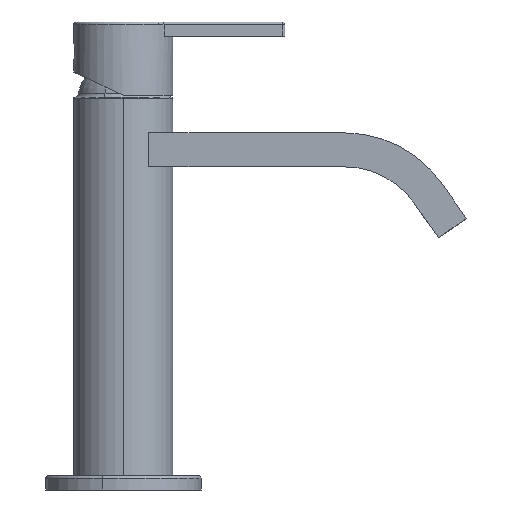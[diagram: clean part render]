
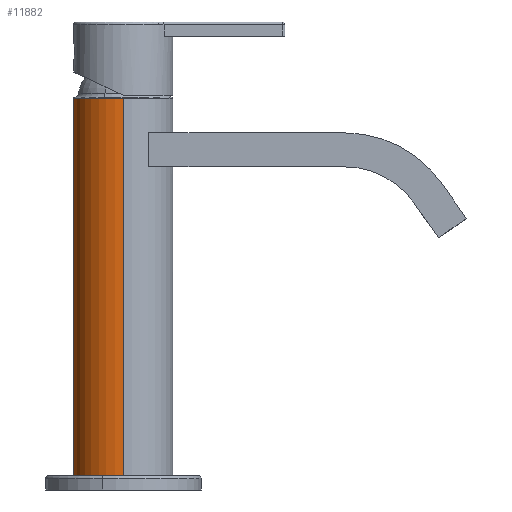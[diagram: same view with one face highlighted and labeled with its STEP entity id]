
A CAD part, left-side view. The second image highlights one B-rep face of the part: STEP entity #11882.
In plain terms, the highlighted cylindrical face has radius 17.5 mm (diameter 35 mm), a partial arc.
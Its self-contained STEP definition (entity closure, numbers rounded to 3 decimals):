
#38 = EDGE_CURVE ( 'NONE', #26594, #28253, #14179, .T. ) ;
#1697 = CARTESIAN_POINT ( 'NONE',  ( 17.5, 0., -70. ) ) ;
#1782 = CARTESIAN_POINT ( 'NONE',  ( -17.5, 0., -70. ) ) ;
#2060 = CARTESIAN_POINT ( 'NONE',  ( 0., 0., -70. ) ) ;
#2551 = AXIS2_PLACEMENT_3D ( 'NONE', #2060, #30864, #15956 ) ;
#3469 = CARTESIAN_POINT ( 'NONE',  ( 0., 0., 32.5 ) ) ;
#3553 = EDGE_CURVE ( 'NONE', #3843, #26594, #3716, .T. ) ;
#3716 = CIRCLE ( 'NONE', #2551, 17.5 ) ;
#3843 = VERTEX_POINT ( 'NONE', #1782 ) ;
#9134 = EDGE_LOOP ( 'NONE', ( #19263, #20849, #30480, #25633 ) ) ;
#9838 = AXIS2_PLACEMENT_3D ( 'NONE', #18981, #27027, #21350 ) ;
#10633 = LINE ( 'NONE', #27432, #33899 ) ;
#10799 = FACE_OUTER_BOUND ( 'NONE', #9134, .T. ) ;
#11882 = ADVANCED_FACE ( 'NONE', ( #10799 ), #15162, .T. ) ;
#14179 = LINE ( 'NONE', #30623, #33283 ) ;
#15162 = CYLINDRICAL_SURFACE ( 'NONE', #28563, 17.5 ) ;
#15790 = CARTESIAN_POINT ( 'NONE',  ( 17.5, 0., 63. ) ) ;
#15956 = DIRECTION ( 'NONE',  ( -1., 0., 0. ) ) ;
#16303 = DIRECTION ( 'NONE',  ( 0., 0., 1. ) ) ;
#18981 = CARTESIAN_POINT ( 'NONE',  ( 0., 0., 63. ) ) ;
#19263 = ORIENTED_EDGE ( 'NONE', *, *, #3553, .F. ) ;
#19473 = DIRECTION ( 'NONE',  ( 0., 0., 1. ) ) ;
#20326 = CIRCLE ( 'NONE', #9838, 17.5 ) ;
#20849 = ORIENTED_EDGE ( 'NONE', *, *, #35067, .T. ) ;
#21350 = DIRECTION ( 'NONE',  ( 1., 0., 0. ) ) ;
#25633 = ORIENTED_EDGE ( 'NONE', *, *, #38, .F. ) ;
#26104 = DIRECTION ( 'NONE',  ( 0., 0., 1. ) ) ;
#26594 = VERTEX_POINT ( 'NONE', #1697 ) ;
#27027 = DIRECTION ( 'NONE',  ( 0., 0., -1. ) ) ;
#27432 = CARTESIAN_POINT ( 'NONE',  ( -17.5, 0., 32.5 ) ) ;
#28253 = VERTEX_POINT ( 'NONE', #15790 ) ;
#28563 = AXIS2_PLACEMENT_3D ( 'NONE', #3469, #26104, #31611 ) ;
#30480 = ORIENTED_EDGE ( 'NONE', *, *, #31348, .T. ) ;
#30623 = CARTESIAN_POINT ( 'NONE',  ( 17.5, 0., 32.5 ) ) ;
#30864 = DIRECTION ( 'NONE',  ( 0., 0., -1. ) ) ;
#31348 = EDGE_CURVE ( 'NONE', #34997, #28253, #20326, .T. ) ;
#31611 = DIRECTION ( 'NONE',  ( 1., 0., 0. ) ) ;
#33283 = VECTOR ( 'NONE', #19473, 1000. ) ;
#33899 = VECTOR ( 'NONE', #16303, 1000. ) ;
#34997 = VERTEX_POINT ( 'NONE', #36010 ) ;
#35067 = EDGE_CURVE ( 'NONE', #3843, #34997, #10633, .T. ) ;
#36010 = CARTESIAN_POINT ( 'NONE',  ( -17.5, 0., 63. ) ) ;
